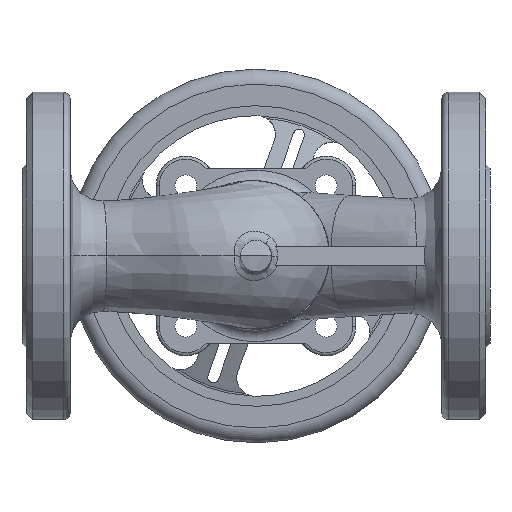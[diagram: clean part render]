
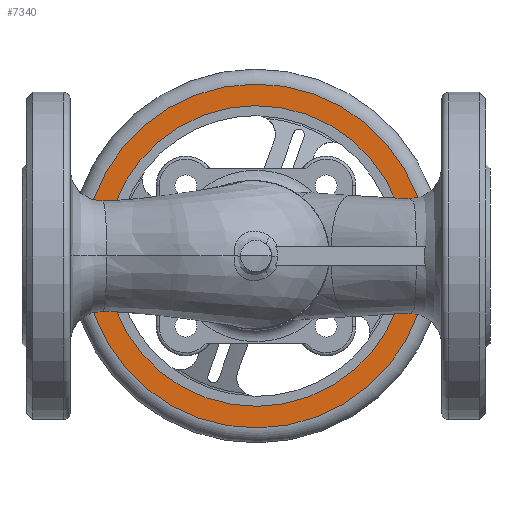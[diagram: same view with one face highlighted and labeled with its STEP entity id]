
A CAD part, front view. The second image highlights one B-rep face of the part: STEP entity #7340.
In plain terms, the highlighted planar face has unit normal (0, -1, 0) as drawn and (0, 1, 0) by its records, which use the part's own axes.
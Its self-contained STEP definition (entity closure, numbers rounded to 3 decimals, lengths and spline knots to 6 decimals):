
#236=PLANE('',#8182);
#335=FACE_BOUND('',#1979,.T.);
#1509=FACE_OUTER_BOUND('',#1978,.T.);
#1978=EDGE_LOOP('',(#6227));
#1979=EDGE_LOOP('',(#6228));
#2459=CIRCLE('',#8178,0.055109);
#2462=CIRCLE('',#8183,0.0482);
#3404=VERTEX_POINT('',#13823);
#3406=VERTEX_POINT('',#13831);
#4391=EDGE_CURVE('',#3404,#3404,#2459,.T.);
#4395=EDGE_CURVE('',#3406,#3406,#2462,.T.);
#6227=ORIENTED_EDGE('',*,*,#4391,.T.);
#6228=ORIENTED_EDGE('',*,*,#4395,.T.);
#7340=ADVANCED_FACE('',(#1509,#335),#236,.T.);
#8178=AXIS2_PLACEMENT_3D('',#13824,#9816,#9817);
#8182=AXIS2_PLACEMENT_3D('',#13830,#9825,#9826);
#8183=AXIS2_PLACEMENT_3D('',#13832,#9827,#9828);
#9816=DIRECTION('center_axis',(0.,1.,0.));
#9817=DIRECTION('ref_axis',(-1.,0.,0.));
#9825=DIRECTION('center_axis',(0.,1.,0.));
#9826=DIRECTION('ref_axis',(1.,0.,0.));
#9827=DIRECTION('center_axis',(0.,-1.,0.));
#9828=DIRECTION('ref_axis',(1.,0.,0.));
#13823=CARTESIAN_POINT('',(0.05508,0.002945,0.));
#13824=CARTESIAN_POINT('Origin',(-0.000028,0.002945,
0.));
#13830=CARTESIAN_POINT('Origin',(-0.000028,0.002945,
0.0482));
#13831=CARTESIAN_POINT('',(0.048171,0.002945,0.));
#13832=CARTESIAN_POINT('Origin',(-0.000028,0.002945,
0.));
